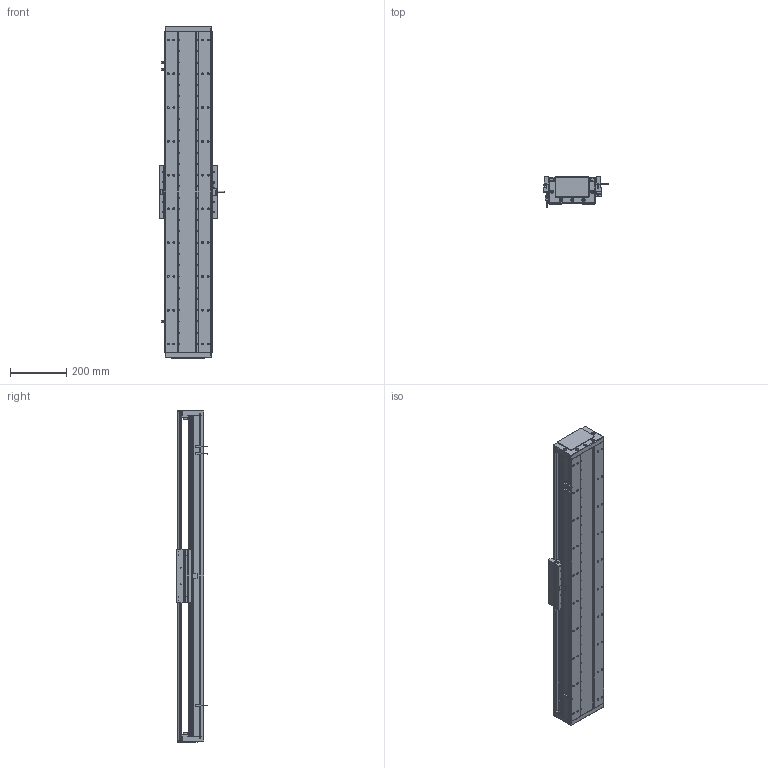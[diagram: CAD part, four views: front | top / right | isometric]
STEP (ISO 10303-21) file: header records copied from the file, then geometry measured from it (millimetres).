
FILE_DESCRIPTION (( 'STEP AP203' ), '1' );
FILE_NAME ('DA-C165-C2-T900-C010-0.2 直线电机.STEP', '2023-05-11T07:33:10', ( '微软用户' ), ( '微软中国' ), 'SwSTEP 2.0', 'SolidWorks 2019', '' );
FILE_SCHEMA (( 'CONFIG_CONTROL_DESIGN' ));
Length unit declared in the file: millimetre
Products named in the file (15): 复件 DA95-HXJ-00 缓冲橡胶^DA-C165-C2-T-C010-0.2-N 直线电机; 葩璃 PM-T45^DA-C165-C2-T-C010-0.2-N 眻盄萇儂; 复件 DA165-GYP-00 光电感应片^DA-C165-C2-T-C010-0.2-N 直线电机; 葩璃 CKM01-W075-TRL^DA-C165-C2-T-C010-0.2-N 眻盄萇儂; 复件 DA165-T-002-00 盖板^DA-C165-C2-T-C010-0.2-N 直线电机_0840-002-00; 复件 XD-U-02L 磁栅尺^DA-C165-C2-T-C010-0.2-N 直线电机_T; DA-C165-C2-T900-C010-0.2 眻盄萇儂; 复件 DMA-010-0.2 读数头^DA-C165-C2-T-C010-0.2-N 直线电机; 珨极趙賑雄怢啣wf-C2; 复件 六角薄螺母 M3^DA-C165-C2-T-C010-0.2-N 直线电机_GB_FASTENER_NUT_STNAB M3-C; IU-CU165-L-00 菁釱_L1140; 葩璃 DA95-GT-T-00^IU-CU165-L 菁釱絳寢_T; 复件 CKM02-W075-C1C2-TP-3.0 一体电机-C2^DA-C165-C2-T-C010-0.2-N 直线电机; IU-CU165-L 菁釱絳寢; 复件 DA165-DG-H-N-00 端盖^DA-C165-C2-T-C010-0.2-N 直线电机
Assembly tree (28 placements, depth 3):
  DA-C165-C2-T900-C010-0.2 眻盄萇儂
    IU-CU165-L 菁釱絳寢
      IU-CU165-L-00 菁釱_L1140
      葩璃 DA95-GT-T-00^IU-CU165-L 菁釱絳寢_T  x4
    复件 DA165-DG-H-N-00 端盖^DA-C165-C2-T-C010-0.2-N 直线电机  x2
    复件 DA95-HXJ-00 缓冲橡胶^DA-C165-C2-T-C010-0.2-N 直线电机  x4
    复件 DA165-T-002-00 盖板^DA-C165-C2-T-C010-0.2-N 直线电机_0840-002-00
    复件 XD-U-02L 磁栅尺^DA-C165-C2-T-C010-0.2-N 直线电机_T
    葩璃 PM-T45^DA-C165-C2-T-C010-0.2-N 眻盄萇儂  x3
    葩璃 CKM01-W075-TRL^DA-C165-C2-T-C010-0.2-N 眻盄萇儂
    复件 DA165-GYP-00 光电感应片^DA-C165-C2-T-C010-0.2-N 直线电机
    复件 DMA-010-0.2 读数头^DA-C165-C2-T-C010-0.2-N 直线电机
    复件 CKM02-W075-C1C2-TP-3.0 一体电机-C2^DA-C165-C2-T-C010-0.2-N 直线电机
    复件 六角薄螺母 M3^DA-C165-C2-T-C010-0.2-N 直线电机_GB_FASTENER_NUT_STNAB M3-C  x6
    珨极趙賑雄怢啣wf-C2
Bounding box: 233 x 111.45 x 1180 mm (x, y, z)
Volume: 8418144 mm3; surface area: 2318934.4 mm2
Topology: 66 solids, 66 shells, 3144 faces, 8696 edges, 5471 vertices
Faces by surface type: cylinder 1615, plane 1065, cone 406, torus 54, sphere 4
Entity records: 96127 total; most frequent: CARTESIAN_POINT 22880, DIRECTION 15058, ORIENTED_EDGE 14866, EDGE_CURVE 7433, AXIS2_PLACEMENT_3D 5661, VERTEX_POINT 4807, VECTOR 3736, LINE 3736
